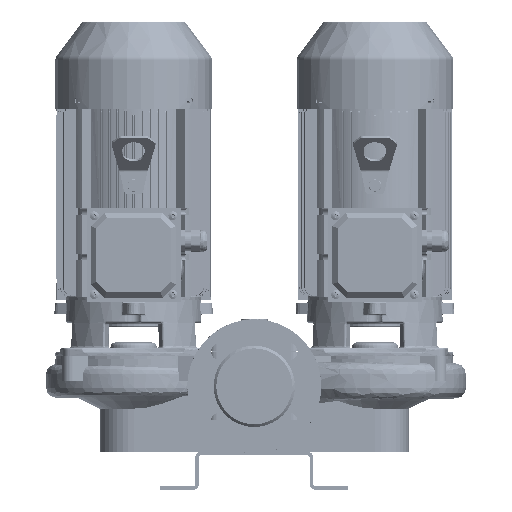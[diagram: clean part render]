
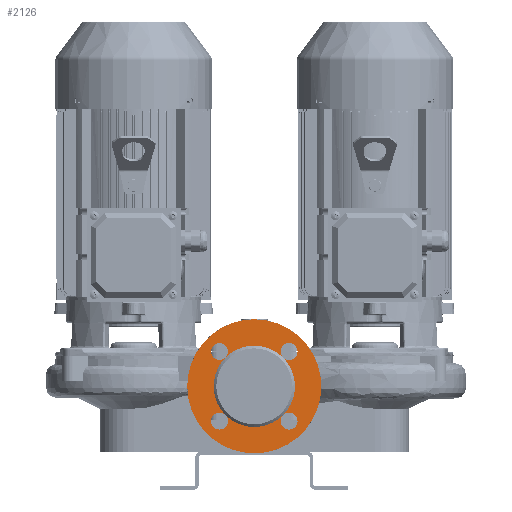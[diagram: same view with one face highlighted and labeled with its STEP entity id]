
A CAD part, front view. The second image highlights one B-rep face of the part: STEP entity #2126.
In plain terms, the highlighted planar face has unit normal (0, -1, 0) as drawn and (0, 1, 0) by its records, which use the part's own axes.
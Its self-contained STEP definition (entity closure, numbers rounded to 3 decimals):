
#2126=ADVANCED_FACE('',(#4023,#4024),#4025,.T.);
#2170=EDGE_CURVE('',#4093,#4094,#4095,.T.);
#2172=EDGE_CURVE('',#4097,#4093,#4098,.T.);
#2174=EDGE_CURVE('',#4100,#4097,#4101,.T.);
#2178=EDGE_CURVE('',#4107,#4108,#4109,.T.);
#2182=EDGE_CURVE('',#4115,#4116,#4117,.T.);
#2186=EDGE_CURVE('',#4123,#4124,#4125,.T.);
#2190=EDGE_CURVE('',#4131,#4132,#4133,.T.);
#2194=EDGE_CURVE('',#4139,#4140,#4141,.T.);
#2424=EDGE_CURVE('',#4140,#4139,#4490,.T.);
#2428=EDGE_CURVE('',#4097,#4131,#4494,.T.);
#2430=EDGE_CURVE('',#4132,#4097,#4496,.T.);
#2432=EDGE_CURVE('',#4093,#4123,#4498,.T.);
#2434=EDGE_CURVE('',#4124,#4093,#4500,.T.);
#2436=EDGE_CURVE('',#4502,#4115,#4503,.T.);
#2438=EDGE_CURVE('',#4116,#4502,#4505,.T.);
#2440=EDGE_CURVE('',#4507,#4107,#4508,.T.);
#2442=EDGE_CURVE('',#4108,#4507,#4510,.T.);
#2444=EDGE_CURVE('',#4094,#4502,#4512,.T.);
#2446=EDGE_CURVE('',#4502,#4507,#4514,.T.);
#2448=EDGE_CURVE('',#4507,#4100,#4516,.T.);
#4023=FACE_OUTER_BOUND('',#10858,.T.);
#4024=FACE_BOUND('',#10859,.T.);
#4025=PLANE('',#10860);
#4093=VERTEX_POINT('',#11894);
#4094=VERTEX_POINT('',#11895);
#4095=CIRCLE('',#11896,45.5);
#4097=VERTEX_POINT('',#11899);
#4098=CIRCLE('',#11900,45.5);
#4100=VERTEX_POINT('',#11903);
#4101=CIRCLE('',#11904,45.5);
#4107=VERTEX_POINT('',#11912);
#4108=VERTEX_POINT('',#11913);
#4109=CIRCLE('',#11914,9.5);
#4115=VERTEX_POINT('',#11922);
#4116=VERTEX_POINT('',#11923);
#4117=CIRCLE('',#11924,9.5);
#4123=VERTEX_POINT('',#11932);
#4124=VERTEX_POINT('',#11933);
#4125=CIRCLE('',#11934,9.5);
#4131=VERTEX_POINT('',#11942);
#4132=VERTEX_POINT('',#11943);
#4133=CIRCLE('',#11944,9.5);
#4139=VERTEX_POINT('',#11952);
#4140=VERTEX_POINT('',#11953);
#4141=CIRCLE('',#11954,75.0);
#4490=CIRCLE('',#12531,75.0);
#4494=CIRCLE('',#12537,9.5);
#4496=CIRCLE('',#12540,9.5);
#4498=CIRCLE('',#12543,9.5);
#4500=CIRCLE('',#12546,9.5);
#4502=VERTEX_POINT('',#12549);
#4503=CIRCLE('',#12550,9.5);
#4505=CIRCLE('',#12553,9.5);
#4507=VERTEX_POINT('',#12556);
#4508=CIRCLE('',#12557,9.5);
#4510=CIRCLE('',#12560,9.5);
#4512=CIRCLE('',#12563,45.5);
#4514=CIRCLE('',#12566,45.5);
#4516=CIRCLE('',#12569,45.5);
#10858=EDGE_LOOP('',(#20376,#20377));
#10859=EDGE_LOOP('',(#20378,#20379,#20380,#20381,#20382,#20383,#20384,#20385,#20386,#20387,#20388,#20389,#20390,#20391,#20392,#20393,#20394,#20395));
#10860=AXIS2_PLACEMENT_3D('',#20396,#20397,#20398);
#11894=CARTESIAN_POINT('',(32.173,142.0,26.173));
#11895=CARTESIAN_POINT('',(0.,142.0,39.5));
#11896=AXIS2_PLACEMENT_3D('',#20575,#20576,#20577);
#11899=CARTESIAN_POINT('',(32.173,142.0,-38.173));
#11900=AXIS2_PLACEMENT_3D('',#20578,#20579,#20580);
#11903=CARTESIAN_POINT('',(0.,142.0,-51.5));
#11904=AXIS2_PLACEMENT_3D('',#20581,#20582,#20583);
#11912=CARTESIAN_POINT('',(-44.25,142.0,-37.047));
#11913=CARTESIAN_POINT('',(-33.532,142.0,-52.735));
#11914=AXIS2_PLACEMENT_3D('',#20587,#20588,#20589);
#11922=CARTESIAN_POINT('',(-31.047,142.,38.25));
#11923=CARTESIAN_POINT('',(-46.735,142.,27.532));
#11924=AXIS2_PLACEMENT_3D('',#20593,#20594,#20595);
#11932=CARTESIAN_POINT('',(44.25,142.,25.047));
#11933=CARTESIAN_POINT('',(33.532,142.,40.735));
#11934=AXIS2_PLACEMENT_3D('',#20599,#20600,#20601);
#11942=CARTESIAN_POINT('',(31.047,142.0,-50.25));
#11943=CARTESIAN_POINT('',(46.735,142.0,-39.532));
#11944=AXIS2_PLACEMENT_3D('',#20605,#20606,#20607);
#11952=CARTESIAN_POINT('',(0.,142.0,-81.0));
#11953=CARTESIAN_POINT('',(0.,142.0,69.0));
#11954=AXIS2_PLACEMENT_3D('',#20611,#20612,#20613);
#12531=AXIS2_PLACEMENT_3D('',#20868,#20869,#20870);
#12537=AXIS2_PLACEMENT_3D('',#20874,#20875,#20876);
#12540=AXIS2_PLACEMENT_3D('',#20877,#20878,#20879);
#12543=AXIS2_PLACEMENT_3D('',#20880,#20881,#20882);
#12546=AXIS2_PLACEMENT_3D('',#20883,#20884,#20885);
#12549=CARTESIAN_POINT('',(-32.173,142.0,26.173));
#12550=AXIS2_PLACEMENT_3D('',#20886,#20887,#20888);
#12553=AXIS2_PLACEMENT_3D('',#20889,#20890,#20891);
#12556=CARTESIAN_POINT('',(-32.173,142.0,-38.173));
#12557=AXIS2_PLACEMENT_3D('',#20892,#20893,#20894);
#12560=AXIS2_PLACEMENT_3D('',#20895,#20896,#20897);
#12563=AXIS2_PLACEMENT_3D('',#20898,#20899,#20900);
#12566=AXIS2_PLACEMENT_3D('',#20901,#20902,#20903);
#12569=AXIS2_PLACEMENT_3D('',#20904,#20905,#20906);
#20376=ORIENTED_EDGE('',*,*,#2424,.F.);
#20377=ORIENTED_EDGE('',*,*,#2194,.F.);
#20378=ORIENTED_EDGE('',*,*,#2170,.T.);
#20379=ORIENTED_EDGE('',*,*,#2444,.T.);
#20380=ORIENTED_EDGE('',*,*,#2436,.T.);
#20381=ORIENTED_EDGE('',*,*,#2182,.T.);
#20382=ORIENTED_EDGE('',*,*,#2438,.T.);
#20383=ORIENTED_EDGE('',*,*,#2446,.T.);
#20384=ORIENTED_EDGE('',*,*,#2440,.T.);
#20385=ORIENTED_EDGE('',*,*,#2178,.T.);
#20386=ORIENTED_EDGE('',*,*,#2442,.T.);
#20387=ORIENTED_EDGE('',*,*,#2448,.T.);
#20388=ORIENTED_EDGE('',*,*,#2174,.T.);
#20389=ORIENTED_EDGE('',*,*,#2428,.T.);
#20390=ORIENTED_EDGE('',*,*,#2190,.T.);
#20391=ORIENTED_EDGE('',*,*,#2430,.T.);
#20392=ORIENTED_EDGE('',*,*,#2172,.T.);
#20393=ORIENTED_EDGE('',*,*,#2432,.T.);
#20394=ORIENTED_EDGE('',*,*,#2186,.T.);
#20395=ORIENTED_EDGE('',*,*,#2434,.T.);
#20396=CARTESIAN_POINT('',(0.,142.0,-66.25));
#20397=DIRECTION('',(0.0,1.0,0.0));
#20398=DIRECTION('',(0.0,0.0,1.0));
#20575=CARTESIAN_POINT('',(0.,142.0,-6.));
#20576=DIRECTION('',(0.0,-1.0,0.0));
#20577=DIRECTION('',(0.0,0.0,-1.0));
#20578=CARTESIAN_POINT('',(0.,142.0,-6.));
#20579=DIRECTION('',(0.0,-1.0,0.0));
#20580=DIRECTION('',(0.0,0.0,-1.0));
#20581=CARTESIAN_POINT('',(0.,142.0,-6.));
#20582=DIRECTION('',(0.0,-1.0,0.0));
#20583=DIRECTION('',(0.0,0.0,-1.0));
#20587=CARTESIAN_POINT('',(-38.891,142.0,-44.891));
#20588=DIRECTION('',(0.0,-1.0,0.0));
#20589=DIRECTION('',(-0.564,0.0,0.826));
#20593=CARTESIAN_POINT('',(-38.891,142.,32.891));
#20594=DIRECTION('',(0.0,-1.0,0.0));
#20595=DIRECTION('',(0.826,0.0,0.564));
#20599=CARTESIAN_POINT('',(38.891,142.,32.891));
#20600=DIRECTION('',(0.0,-1.0,0.0));
#20601=DIRECTION('',(0.564,0.0,-0.826));
#20605=CARTESIAN_POINT('',(38.891,142.0,-44.891));
#20606=DIRECTION('',(0.0,-1.0,-0.0));
#20607=DIRECTION('',(-0.826,0.0,-0.564));
#20611=CARTESIAN_POINT('',(0.,142.0,-6.));
#20612=DIRECTION('',(0.0,-1.0,0.0));
#20613=DIRECTION('',(0.0,0.0,-1.0));
#20868=CARTESIAN_POINT('',(0.,142.0,-6.));
#20869=DIRECTION('',(0.0,-1.0,0.0));
#20870=DIRECTION('',(0.0,0.0,-1.0));
#20874=CARTESIAN_POINT('',(38.891,142.0,-44.891));
#20875=DIRECTION('',(0.0,-1.0,-0.0));
#20876=DIRECTION('',(-0.826,0.0,-0.564));
#20877=CARTESIAN_POINT('',(38.891,142.0,-44.891));
#20878=DIRECTION('',(0.0,-1.0,-0.0));
#20879=DIRECTION('',(-0.826,0.0,-0.564));
#20880=CARTESIAN_POINT('',(38.891,142.,32.891));
#20881=DIRECTION('',(0.0,-1.0,0.0));
#20882=DIRECTION('',(0.564,0.0,-0.826));
#20883=CARTESIAN_POINT('',(38.891,142.,32.891));
#20884=DIRECTION('',(0.0,-1.0,0.0));
#20885=DIRECTION('',(0.564,0.0,-0.826));
#20886=CARTESIAN_POINT('',(-38.891,142.,32.891));
#20887=DIRECTION('',(0.0,-1.0,0.0));
#20888=DIRECTION('',(0.826,0.0,0.564));
#20889=CARTESIAN_POINT('',(-38.891,142.,32.891));
#20890=DIRECTION('',(0.0,-1.0,0.0));
#20891=DIRECTION('',(0.826,0.0,0.564));
#20892=CARTESIAN_POINT('',(-38.891,142.0,-44.891));
#20893=DIRECTION('',(0.0,-1.0,0.0));
#20894=DIRECTION('',(-0.564,0.0,0.826));
#20895=CARTESIAN_POINT('',(-38.891,142.0,-44.891));
#20896=DIRECTION('',(0.0,-1.0,0.0));
#20897=DIRECTION('',(-0.564,0.0,0.826));
#20898=CARTESIAN_POINT('',(0.,142.0,-6.));
#20899=DIRECTION('',(0.0,-1.0,0.0));
#20900=DIRECTION('',(0.0,0.0,-1.0));
#20901=CARTESIAN_POINT('',(0.,142.0,-6.));
#20902=DIRECTION('',(0.0,-1.0,0.0));
#20903=DIRECTION('',(0.0,0.0,-1.0));
#20904=CARTESIAN_POINT('',(0.,142.0,-6.));
#20905=DIRECTION('',(0.0,-1.0,0.0));
#20906=DIRECTION('',(0.0,0.0,-1.0));
